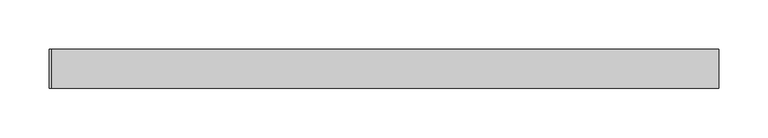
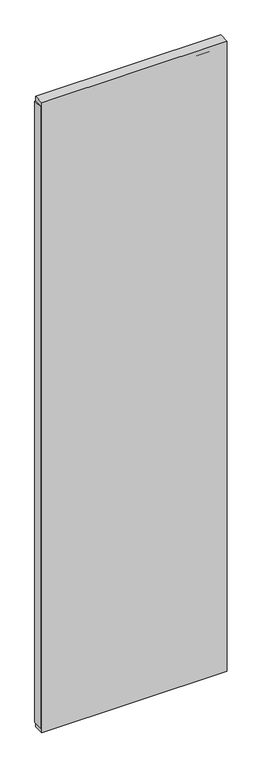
"""IFC4 building model written with IfcOpenShell, lengths in millimetres: plate geometry, Vitré."""

from ifc_helpers import new_model, si_unit, frame, origin, origin_with_axes, place, context, project, spatial, polyline, outline, extrude, source, transform, mapped, element, save


def plate_244b2239(model_context):
    return source(origin(), model_context, "Body", "SweptSolid", [
        extrude(outline(polyline([(-338.6875, -20.0), (-338.6875, 20.0), (341.3125, 20.0), (341.3125, -20.0), (-338.6875, -20.0)])), origin_with_axes(), (0.0, 0.0, 1.0), 2442.375),
        extrude(outline(polyline([(341.3125, -20.0), (-341.3125, -20.0), (-341.3125, 20.0), (341.3125, 20.0), (341.3125, -20.0)])), frame((0.0, 0.0, 17.375), z_axis=(0.0, 0.0, 1.0), x_axis=(1.0, 0.0, 0.0)), (0.0, 0.0, 1.0), 2407.625),
    ])


if __name__ == "__main__":
    model = new_model("IFC4")
    model_context = context("Model", 3, world=origin())
    ifc_project = project(units=[si_unit("LENGTHUNIT", "METRE", prefix="MILLI")], contexts=[model_context])
    site = spatial("IfcSite", under=ifc_project)
    building = spatial("IfcBuilding", under=site)
    placement = place(None, origin())
    plate_shape = plate_244b2239(model_context)
    element("IfcPlate", 1, ObjectType="Vitré", at=placement, inside=building, context=model_context, shape_type="MappedRepresentation", body=[
        mapped(plate_shape, transform((0.0, 0.0, 0.0), x_axis=(1.0, 0.0, 0.0), y_axis=(0.0, 1.0, 0.0), z_axis=(0.0, 0.0, 1.0))),
    ])
    save(model, "model.ifc")
